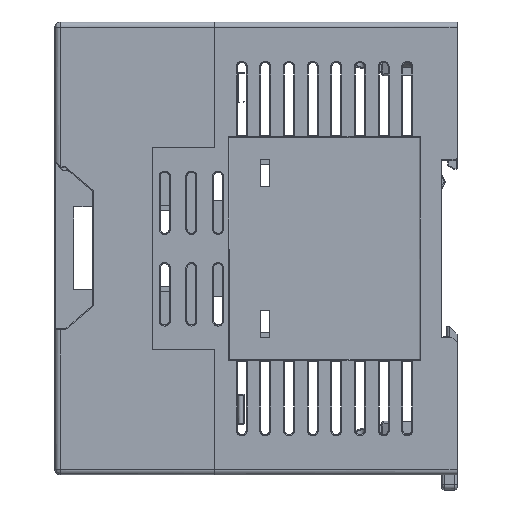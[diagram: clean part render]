
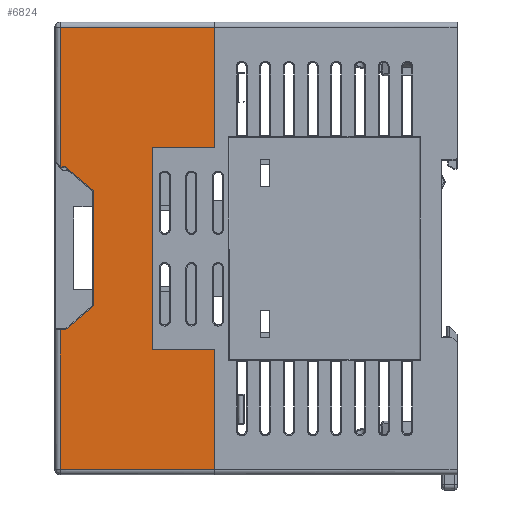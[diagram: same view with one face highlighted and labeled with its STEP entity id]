
A CAD part, left-side view. The second image highlights one B-rep face of the part: STEP entity #6824.
In plain terms, the highlighted planar face has unit normal (-1, 0, 0).
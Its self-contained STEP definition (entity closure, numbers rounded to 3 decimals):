
#6824=ADVANCED_FACE('',(#8938),#53018,.T.);
#8938=FACE_OUTER_BOUND('',#11049,.T.);
#11049=EDGE_LOOP('',(#20578,#20579,#20580,#20581,#20582,#20583,#20584,#20585,
#20586,#20587,#20588,#20589,#20590,#20591,#20592));
#20578=ORIENTED_EDGE('',*,*,#30809,.T.);
#20579=ORIENTED_EDGE('',*,*,#30810,.T.);
#20580=ORIENTED_EDGE('',*,*,#30811,.T.);
#20581=ORIENTED_EDGE('',*,*,#30812,.T.);
#20582=ORIENTED_EDGE('',*,*,#30813,.T.);
#20583=ORIENTED_EDGE('',*,*,#30814,.T.);
#20584=ORIENTED_EDGE('',*,*,#30815,.T.);
#20585=ORIENTED_EDGE('',*,*,#30816,.T.);
#20586=ORIENTED_EDGE('',*,*,#30817,.T.);
#20587=ORIENTED_EDGE('',*,*,#30818,.T.);
#20588=ORIENTED_EDGE('',*,*,#30819,.T.);
#20589=ORIENTED_EDGE('',*,*,#30820,.T.);
#20590=ORIENTED_EDGE('',*,*,#30821,.T.);
#20591=ORIENTED_EDGE('',*,*,#30822,.T.);
#20592=ORIENTED_EDGE('',*,*,#30823,.T.);
#30809=EDGE_CURVE('',#51271,#51272,#41337,.T.);
#30810=EDGE_CURVE('',#51272,#51273,#41338,.T.);
#30811=EDGE_CURVE('',#51273,#51274,#41339,.T.);
#30812=EDGE_CURVE('',#51274,#51275,#41340,.T.);
#30813=EDGE_CURVE('',#51275,#51276,#41341,.T.);
#30814=EDGE_CURVE('',#51276,#51277,#41342,.T.);
#30815=EDGE_CURVE('',#51277,#51278,#41343,.T.);
#30816=EDGE_CURVE('',#51278,#51279,#41344,.T.);
#30817=EDGE_CURVE('',#51279,#51280,#41345,.T.);
#30818=EDGE_CURVE('',#51280,#51281,#41346,.T.);
#30819=EDGE_CURVE('',#51281,#51282,#41347,.T.);
#30820=EDGE_CURVE('',#51282,#51283,#41348,.T.);
#30821=EDGE_CURVE('',#51283,#51284,#41349,.T.);
#30822=EDGE_CURVE('',#51284,#51285,#41350,.T.);
#30823=EDGE_CURVE('',#51285,#51271,#41351,.T.);
#41337=B_SPLINE_CURVE_WITH_KNOTS('',1,(#123827,#123828),.UNSPECIFIED.,.F.,
 .F.,(2,2),(0.,1.074),.UNSPECIFIED.);
#41338=B_SPLINE_CURVE_WITH_KNOTS('',1,(#123829,#123830),.UNSPECIFIED.,.F.,
 .F.,(2,2),(0.,27.8),.UNSPECIFIED.);
#41339=B_SPLINE_CURVE_WITH_KNOTS('',1,(#123831,#123832),.UNSPECIFIED.,.F.,
 .F.,(2,2),(0.,30.7),.UNSPECIFIED.);
#41340=B_SPLINE_CURVE_WITH_KNOTS('',1,(#123833,#123834),.UNSPECIFIED.,.F.,
 .F.,(2,2),(0.,23.9),.UNSPECIFIED.);
#41341=B_SPLINE_CURVE_WITH_KNOTS('',1,(#123835,#123836),.UNSPECIFIED.,.F.,
 .F.,(2,2),(0.,12.3),.UNSPECIFIED.);
#41342=B_SPLINE_CURVE_WITH_KNOTS('',1,(#123837,#123838),.UNSPECIFIED.,.F.,
 .F.,(2,2),(0.,40.2),.UNSPECIFIED.);
#41343=B_SPLINE_CURVE_WITH_KNOTS('',1,(#123839,#123840),.UNSPECIFIED.,.F.,
 .F.,(2,2),(0.,12.3),.UNSPECIFIED.);
#41344=B_SPLINE_CURVE_WITH_KNOTS('',1,(#123841,#123842),.UNSPECIFIED.,.F.,
 .F.,(2,2),(0.,23.9),.UNSPECIFIED.);
#41345=B_SPLINE_CURVE_WITH_KNOTS('',1,(#123843,#123844),.UNSPECIFIED.,.F.,
 .F.,(2,2),(0.,30.7),.UNSPECIFIED.);
#41346=B_SPLINE_CURVE_WITH_KNOTS('',1,(#123845,#123846),.UNSPECIFIED.,.F.,
 .F.,(2,2),(0.,27.588),.UNSPECIFIED.);
#41347=B_SPLINE_CURVE_WITH_KNOTS('',1,(#123847,#123848),.UNSPECIFIED.,.F.,
 .F.,(2,2),(0.,0.276),.UNSPECIFIED.);
#41348=B_SPLINE_CURVE_WITH_KNOTS('',1,(#123849,#123850),.UNSPECIFIED.,.F.,
 .F.,(2,2),(0.,0.897),.UNSPECIFIED.);
#41349=B_SPLINE_CURVE_WITH_KNOTS('',1,(#123851,#123852),.UNSPECIFIED.,.F.,
 .F.,(2,2),(0.,7.33),.UNSPECIFIED.);
#41350=B_SPLINE_CURVE_WITH_KNOTS('',1,(#123853,#123854),.UNSPECIFIED.,.F.,
 .F.,(2,2),(0.,22.885),.UNSPECIFIED.);
#41351=B_SPLINE_CURVE_WITH_KNOTS('',1,(#123855,#123856),.UNSPECIFIED.,.F.,
 .F.,(2,2),(0.,7.33),.UNSPECIFIED.);
#51271=VERTEX_POINT('',#123812);
#51272=VERTEX_POINT('',#123813);
#51273=VERTEX_POINT('',#123814);
#51274=VERTEX_POINT('',#123815);
#51275=VERTEX_POINT('',#123816);
#51276=VERTEX_POINT('',#123817);
#51277=VERTEX_POINT('',#123818);
#51278=VERTEX_POINT('',#123819);
#51279=VERTEX_POINT('',#123820);
#51280=VERTEX_POINT('',#123821);
#51281=VERTEX_POINT('',#123822);
#51282=VERTEX_POINT('',#123823);
#51283=VERTEX_POINT('',#123824);
#51284=VERTEX_POINT('',#123825);
#51285=VERTEX_POINT('',#123826);
#53018=PLANE('',#54702);
#54702=AXIS2_PLACEMENT_3D('',#123811,#56303,$);
#56303=DIRECTION('',(-1.,0.,0.));
#123811=CARTESIAN_POINT('',(-20.183,33.782,-52.89));
#123812=CARTESIAN_POINT('',(-20.183,29.626,-16.278));
#123813=CARTESIAN_POINT('',(-20.183,30.7,-16.278));
#123814=CARTESIAN_POINT('',(-20.183,30.7,-44.078));
#123815=CARTESIAN_POINT('',(-20.183,0.,-44.078));
#123816=CARTESIAN_POINT('',(-20.183,0.,-20.178));
#123817=CARTESIAN_POINT('',(-20.183,12.3,-20.178));
#123818=CARTESIAN_POINT('',(-20.183,12.3,20.022));
#123819=CARTESIAN_POINT('',(-20.183,0.,20.022));
#123820=CARTESIAN_POINT('',(-20.183,0.,43.922));
#123821=CARTESIAN_POINT('',(-20.183,30.7,43.922));
#123822=CARTESIAN_POINT('',(-20.183,30.7,16.334));
#123823=CARTESIAN_POINT('',(-20.183,30.523,16.122));
#123824=CARTESIAN_POINT('',(-20.183,29.626,16.122));
#123825=CARTESIAN_POINT('',(-20.183,24.05,11.364));
#123826=CARTESIAN_POINT('',(-20.183,24.05,-11.521));
#123827=CARTESIAN_POINT('',(-20.183,29.626,-16.278));
#123828=CARTESIAN_POINT('',(-20.183,30.7,-16.278));
#123829=CARTESIAN_POINT('',(-20.183,30.7,-16.278));
#123830=CARTESIAN_POINT('',(-20.183,30.7,-44.078));
#123831=CARTESIAN_POINT('',(-20.183,30.7,-44.078));
#123832=CARTESIAN_POINT('',(-20.183,0.,-44.078));
#123833=CARTESIAN_POINT('',(-20.183,0.,-44.078));
#123834=CARTESIAN_POINT('',(-20.183,0.,-20.178));
#123835=CARTESIAN_POINT('',(-20.183,0.,-20.178));
#123836=CARTESIAN_POINT('',(-20.183,12.3,-20.178));
#123837=CARTESIAN_POINT('',(-20.183,12.3,-20.178));
#123838=CARTESIAN_POINT('',(-20.183,12.3,20.022));
#123839=CARTESIAN_POINT('',(-20.183,12.3,20.022));
#123840=CARTESIAN_POINT('',(-20.183,0.,20.022));
#123841=CARTESIAN_POINT('',(-20.183,0.,20.022));
#123842=CARTESIAN_POINT('',(-20.183,0.,43.922));
#123843=CARTESIAN_POINT('',(-20.183,0.,43.922));
#123844=CARTESIAN_POINT('',(-20.183,30.7,43.922));
#123845=CARTESIAN_POINT('',(-20.183,30.7,43.922));
#123846=CARTESIAN_POINT('',(-20.183,30.7,16.334));
#123847=CARTESIAN_POINT('',(-20.183,30.7,16.334));
#123848=CARTESIAN_POINT('',(-20.183,30.523,16.122));
#123849=CARTESIAN_POINT('',(-20.183,30.523,16.122));
#123850=CARTESIAN_POINT('',(-20.183,29.626,16.122));
#123851=CARTESIAN_POINT('',(-20.183,29.626,16.122));
#123852=CARTESIAN_POINT('',(-20.183,24.05,11.364));
#123853=CARTESIAN_POINT('',(-20.183,24.05,11.364));
#123854=CARTESIAN_POINT('',(-20.183,24.05,-11.521));
#123855=CARTESIAN_POINT('',(-20.183,24.05,-11.521));
#123856=CARTESIAN_POINT('',(-20.183,29.626,-16.278));
